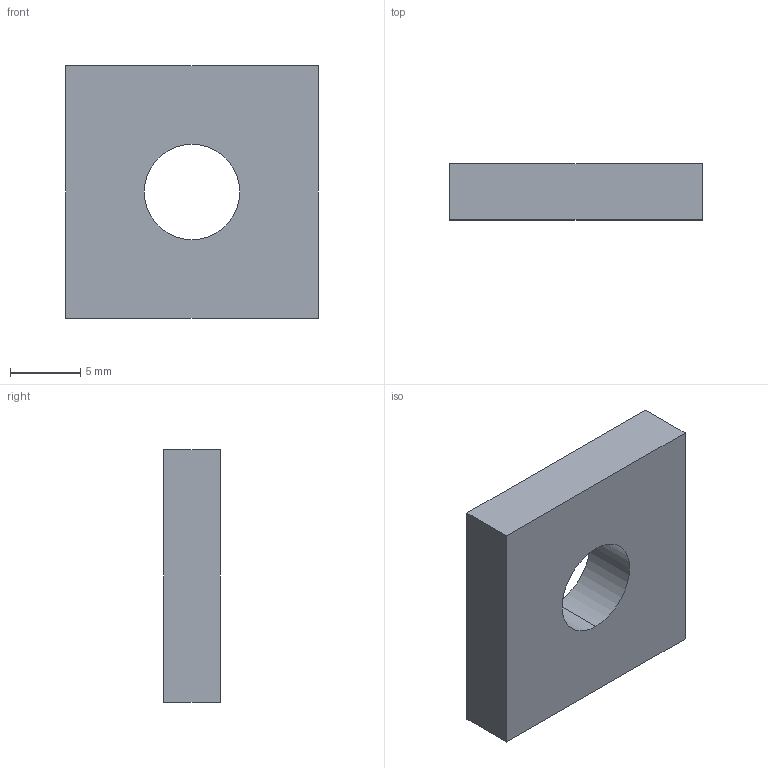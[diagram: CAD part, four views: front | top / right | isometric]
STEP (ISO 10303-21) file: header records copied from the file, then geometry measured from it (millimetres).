
FILE_DESCRIPTION (( 'STEP AP203' ), '1' );
FILE_NAME ('2.12.10.M8.STEP', '2014-06-24T02:23:41', ( 'USER' ), ( 'Microsoft' ), 'SwSTEP 2.0', 'SolidWorks 2012', '' );
FILE_SCHEMA (( 'CONFIG_CONTROL_DESIGN' ));
Length unit declared in the file: millimetre
Products named in the file (1): 2.12.10.M8
Bounding box: 18 x 4 x 18 mm (x, y, z)
Volume: 1150.7 mm3; surface area: 948.8 mm2
Topology: 1 solids, 1 shells, 8 faces, 18 edges, 12 vertices
Faces by surface type: plane 6, cylinder 2
Entity records: 307 total; most frequent: DIRECTION 40, CARTESIAN_POINT 39, ORIENTED_EDGE 36, EDGE_CURVE 18, VECTOR 14, LINE 14, AXIS2_PLACEMENT_3D 13, VERTEX_POINT 12
